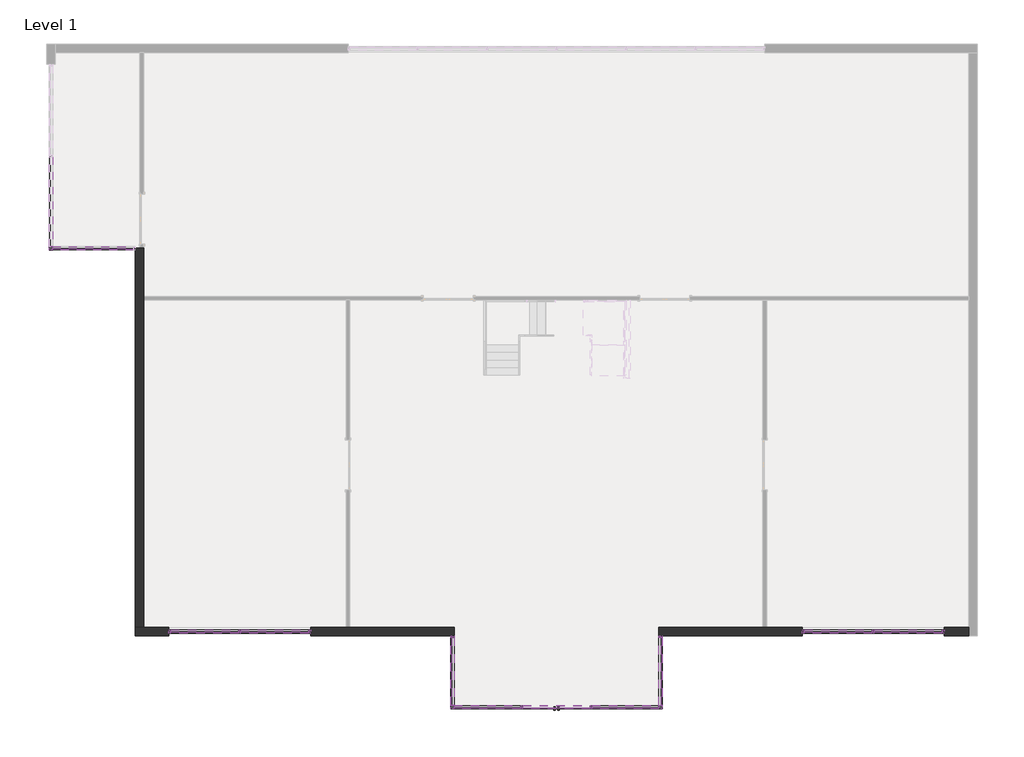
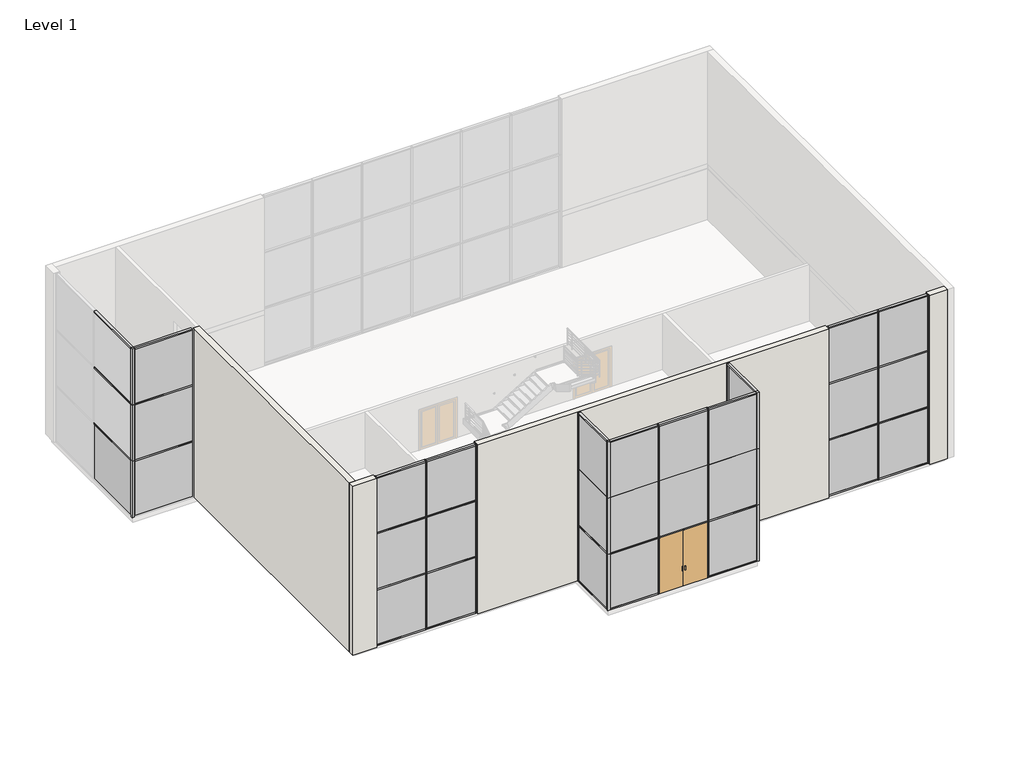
# One storey, part 1 of 5: 75 members, 30 plates, 2 walls, 1 door.
"""IFC4 building model written with IfcOpenShell, lengths in millimetres."""

from ifc_helpers import new_model, si_unit, origin, place, context, project, spatial, faceted_brep, transform, mapped, element, save
from components import m_curtain_wall_dbl_glass_m_curtain_wall_dbl_glass_65589565, member_092dde94, member_3b285806, member_887e70fb, member_3f395ae9, member_eaba9652, member_bd5c9510, member_6d1da0dd, member_11ed7e2d, member_605e1044, member_b6766b59, member_5ef46571, member_2d82c926, member_728bf22d, member_0c17b8a1, member_268c476f, system_panel_glazed_dec8f576, system_panel_glazed_a2b5a2cd, system_panel_glazed_4b2e8b6a, system_panel_glazed_935986ee, system_panel_glazed_54eba105, system_panel_glazed_2b873caf, system_panel_glazed_c65d631f, system_panel_glazed_bd540f61, system_panel_glazed_3bf1a00e, system_panel_glazed_5724f4ed, system_panel_glazed_d0cb5eef, system_panel_glazed_25cc98ba, system_panel_glazed_d8e6d469, system_panel_glazed_b25d086d, system_panel_glazed_057324e0

model = new_model("IFC4")

# Units and contexts
model_context = context("Model", 3, world=origin())
ifc_project = project(units=[si_unit("LENGTHUNIT", "METRE", prefix="MILLI")], contexts=[model_context])

# Site, building, storey
site = spatial("IfcSite", under=ifc_project)
building = spatial("IfcBuilding", under=site)
storey = spatial("IfcBuildingStorey", under=building, Name="Level 1", Elevation=0.0)

# Door
placement = place(None, origin())
m_curtain_wall_dbl_glass_m_curtain_wall_dbl_glass_shape = m_curtain_wall_dbl_glass_m_curtain_wall_dbl_glass_65589565(model_context)
element("IfcDoor", 1, ObjectType="M_Curtain Wall Dbl Glass : M_Curtain Wall Dbl Glass", at=placement, inside=storey, context=model_context, shape_type="MappedRepresentation", body=[
    mapped(m_curtain_wall_dbl_glass_m_curtain_wall_dbl_glass_shape, transform((-3088.917382, -8357.3516396, 0.0), x_axis=(-1.0, 0.0, 0.0), y_axis=(0.0, -1.0, 0.0), z_axis=(0.0, 0.0, 1.0))),
])

# Members
member_shape = member_092dde94(model_context)
element("IfcMember", 2, ObjectType="Quad Corner Mullion : 5\" x 5\" Quad Corner", at=placement, inside=storey, context=model_context, shape_type="MappedRepresentation", body=[
    mapped(member_shape, transform((-6898.917382, -8357.3516396, 0.0), x_axis=(-1.0, 0.0, 0.0), y_axis=(0.0, 1.0, 0.0), z_axis=(0.0, 0.0, -1.0))),
])
element("IfcMember", 3, ObjectType="Quad Corner Mullion : 5\" x 5\" Quad Corner", at=placement, inside=storey, context=model_context, shape_type="MappedRepresentation", body=[
    mapped(member_shape, transform((721.082618, -8357.3516396, 3048.0), x_axis=(1.0, 0.0, 0.0), y_axis=(0.0, 1.0, 0.0), z_axis=(0.0, 0.0, 1.0))),
])
element("IfcMember", 4, ObjectType="Quad Corner Mullion : 5\" x 5\" Quad Corner", at=placement, inside=storey, context=model_context, shape_type="MappedRepresentation", body=[
    mapped(member_shape, transform((-21580.117382, 8438.3983604, 0.0), x_axis=(-1.0, 0.0, 0.0), y_axis=(0.0, 1.0, 0.0), z_axis=(0.0, 0.0, -1.0))),
])
element("IfcMember", 5, ObjectType="Quad Corner Mullion : 5\" x 5\" Quad Corner", at=placement, inside=storey, context=model_context, shape_type="MappedRepresentation", body=[
    mapped(member_shape, transform((-21580.117382, 8438.3983604, 3048.0), x_axis=(-1.0, 0.0, 0.0), y_axis=(0.0, 1.0, 0.0), z_axis=(0.0, 0.0, -1.0))),
])
element("IfcMember", 6, ObjectType="Quad Corner Mullion : 5\" x 5\" Quad Corner", at=placement, inside=storey, context=model_context, shape_type="MappedRepresentation", body=[
    mapped(member_shape, transform((-21580.117382, 8438.3983604, 6096.0), x_axis=(-1.0, 0.0, 0.0), y_axis=(0.0, 1.0, 0.0), z_axis=(0.0, 0.0, -1.0))),
])
element("IfcMember", 7, ObjectType="Quad Corner Mullion : 5\" x 5\" Quad Corner", at=placement, inside=storey, context=model_context, shape_type="MappedRepresentation", body=[
    mapped(member_shape, transform((721.082618, -8357.3516396, 9144.0), x_axis=(1.0, 0.0, 0.0), y_axis=(0.0, 1.0, 0.0), z_axis=(0.0, 0.0, 1.0))),
])
element("IfcMember", 8, ObjectType="Quad Corner Mullion : 5\" x 5\" Quad Corner", at=placement, inside=storey, context=model_context, shape_type="MappedRepresentation", body=[
    mapped(member_shape, transform((-6898.917382, -8357.3516396, 3048.0), x_axis=(-1.0, 0.0, 0.0), y_axis=(0.0, 1.0, 0.0), z_axis=(0.0, 0.0, -1.0))),
])
element("IfcMember", 9, ObjectType="Quad Corner Mullion : 5\" x 5\" Quad Corner", at=placement, inside=storey, context=model_context, shape_type="MappedRepresentation", body=[
    mapped(member_shape, transform((721.082618, -8357.3516396, 6096.0), x_axis=(1.0, 0.0, 0.0), y_axis=(0.0, 1.0, 0.0), z_axis=(0.0, 0.0, 1.0))),
])
element("IfcMember", 10, ObjectType="Quad Corner Mullion : 5\" x 5\" Quad Corner", at=placement, inside=storey, context=model_context, shape_type="MappedRepresentation", body=[
    mapped(member_shape, transform((-6898.917382, -8357.3516396, 6096.0), x_axis=(-1.0, 0.0, 0.0), y_axis=(0.0, 1.0, 0.0), z_axis=(0.0, 0.0, -1.0))),
])
member_2_shape = member_3b285806(model_context)
element("IfcMember", 11, ObjectType="Rectangular Mullion : 2.5\" x 5\" rectangular", at=placement, inside=storey, context=model_context, shape_type="MappedRepresentation", body=[
    mapped(member_2_shape, transform((-6835.417382, -8357.3516396, 9144.0), x_axis=(0.0, 0.0, 1.0), y_axis=(0.0, 1.0, 0.0), z_axis=(-1.0, 0.0, 0.0))),
])
element("IfcMember", 12, ObjectType="Rectangular Mullion : 2.5\" x 5\" rectangular", at=placement, inside=storey, context=model_context, shape_type="MappedRepresentation", body=[
    mapped(member_2_shape, transform((-1787.1673821, -8357.3516396, 9144.0), x_axis=(0.0, 0.0, 1.0), y_axis=(0.0, 1.0, 0.0), z_axis=(-1.0, 0.0, 0.0))),
])
element("IfcMember", 13, ObjectType="Rectangular Mullion : 2.5\" x 5\" rectangular", at=placement, inside=storey, context=model_context, shape_type="MappedRepresentation", body=[
    mapped(member_2_shape, transform((657.582618, -8357.3516396, 0.0), x_axis=(0.0, 0.0, -1.0), y_axis=(0.0, 1.0, 0.0), z_axis=(1.0, 0.0, 0.0))),
])
element("IfcMember", 14, ObjectType="Rectangular Mullion : 2.5\" x 5\" rectangular", at=placement, inside=storey, context=model_context, shape_type="MappedRepresentation", body=[
    mapped(member_2_shape, transform((-4390.6673819, -8357.3516396, 0.0), x_axis=(0.0, 0.0, -1.0), y_axis=(0.0, 1.0, 0.0), z_axis=(1.0, 0.0, 0.0))),
])
member_3_shape = member_887e70fb(model_context)
element("IfcMember", 15, ObjectType="Rectangular Mullion : 2.5\" x 5\" rectangular", at=placement, inside=storey, context=model_context, shape_type="MappedRepresentation", body=[
    mapped(member_3_shape, transform((-4327.1673819, -8357.3516396, 9144.0), x_axis=(0.0, 0.0, 1.0), y_axis=(0.0, 1.0, 0.0), z_axis=(-1.0, 0.0, 0.0))),
])
member_4_shape = member_3f395ae9(model_context)
element("IfcMember", 16, ObjectType="Rectangular Mullion : 2.5\" x 5\" rectangular", at=placement, inside=storey, context=model_context, shape_type="MappedRepresentation", body=[
    mapped(member_4_shape, transform((-6898.917382, -5737.9766396, 0.0), x_axis=(0.0, 1.0, 0.0), y_axis=(1.0, 0.0, 0.0), z_axis=(0.0, 0.0, -1.0))),
])
element("IfcMember", 17, ObjectType="Rectangular Mullion : 2.5\" x 5\" rectangular", at=placement, inside=storey, context=model_context, shape_type="MappedRepresentation", body=[
    mapped(member_4_shape, transform((-17262.117382, -5582.4016396, 0.0), x_axis=(-1.0, 0.0, 0.0), y_axis=(0.0, 1.0, 0.0), z_axis=(0.0, 0.0, -1.0))),
])
element("IfcMember", 18, ObjectType="Rectangular Mullion : 2.5\" x 5\" rectangular", at=placement, inside=storey, context=model_context, shape_type="MappedRepresentation", body=[
    mapped(member_4_shape, transform((-17262.117382, -5582.4016396, 6096.0), x_axis=(-1.0, 0.0, 0.0), y_axis=(0.0, 1.0, 0.0), z_axis=(0.0, 0.0, -1.0))),
])
member_5_shape = member_eaba9652(model_context)
element("IfcMember", 19, ObjectType="Rectangular Mullion : 2.5\" x 5\" rectangular", at=placement, inside=storey, context=model_context, shape_type="MappedRepresentation", body=[
    mapped(member_5_shape, transform((-1818.9173821, -8357.3516396, 0.0), x_axis=(-1.0, 0.0, 0.0), y_axis=(0.0, 1.0, 0.0), z_axis=(0.0, 0.0, -1.0))),
])
element("IfcMember", 20, ObjectType="Rectangular Mullion : 2.5\" x 5\" rectangular", at=placement, inside=storey, context=model_context, shape_type="MappedRepresentation", body=[
    mapped(member_5_shape, transform((-4358.9173819, -8357.3516396, 0.0), x_axis=(-1.0, 0.0, 0.0), y_axis=(0.0, 1.0, 0.0), z_axis=(0.0, 0.0, -1.0))),
])
element("IfcMember", 21, ObjectType="Rectangular Mullion : 2.5\" x 5\" rectangular", at=placement, inside=storey, context=model_context, shape_type="MappedRepresentation", body=[
    mapped(member_5_shape, transform((-14671.317382, -5582.4016396, 0.0), x_axis=(-1.0, 0.0, 0.0), y_axis=(0.0, 1.0, 0.0), z_axis=(0.0, 0.0, -1.0))),
])
element("IfcMember", 22, ObjectType="Rectangular Mullion : 2.5\" x 5\" rectangular", at=placement, inside=storey, context=model_context, shape_type="MappedRepresentation", body=[
    mapped(member_5_shape, transform((-14671.317382, -5582.4016396, 6096.0), x_axis=(-1.0, 0.0, 0.0), y_axis=(0.0, 1.0, 0.0), z_axis=(0.0, 0.0, -1.0))),
])
member_6_shape = member_bd5c9510(model_context)
element("IfcMember", 23, ObjectType="Rectangular Mullion : 2.5\" x 5\" rectangular", at=placement, inside=storey, context=model_context, shape_type="MappedRepresentation", body=[
    mapped(member_6_shape, transform((-6835.417382, -8357.3516396, 3048.0), x_axis=(0.0, 0.0, 1.0), y_axis=(0.0, 1.0, 0.0), z_axis=(-1.0, 0.0, 0.0))),
])
element("IfcMember", 24, ObjectType="Rectangular Mullion : 2.5\" x 5\" rectangular", at=placement, inside=storey, context=model_context, shape_type="MappedRepresentation", body=[
    mapped(member_6_shape, transform((-1787.1673821, -8357.3516396, 3048.0), x_axis=(0.0, 0.0, 1.0), y_axis=(0.0, 1.0, 0.0), z_axis=(-1.0, 0.0, 0.0))),
])
member_7_shape = member_6d1da0dd(model_context)
element("IfcMember", 25, ObjectType="Rectangular Mullion : 2.5\" x 5\" rectangular", at=placement, inside=storey, context=model_context, shape_type="MappedRepresentation", body=[
    mapped(member_7_shape, transform((-4327.1673819, -8357.3516396, 3048.0), x_axis=(0.0, 0.0, 1.0), y_axis=(0.0, 1.0, 0.0), z_axis=(-1.0, 0.0, 0.0))),
])
element("IfcMember", 26, ObjectType="Rectangular Mullion : 2.5\" x 5\" rectangular", at=placement, inside=storey, context=model_context, shape_type="MappedRepresentation", body=[
    mapped(member_4_shape, transform((-12080.517382, -5582.4016396, 9144.0), x_axis=(1.0, 0.0, 0.0), y_axis=(0.0, 1.0, 0.0), z_axis=(0.0, 0.0, 1.0))),
])
element("IfcMember", 27, ObjectType="Rectangular Mullion : 2.5\" x 5\" rectangular", at=placement, inside=storey, context=model_context, shape_type="MappedRepresentation", body=[
    mapped(member_4_shape, transform((721.082618, -5737.9766396, 3048.0), x_axis=(0.0, 1.0, 0.0), y_axis=(-1.0, 0.0, 0.0), z_axis=(0.0, 0.0, 1.0))),
])
element("IfcMember", 28, ObjectType="Rectangular Mullion : 2.5\" x 5\" rectangular", at=placement, inside=storey, context=model_context, shape_type="MappedRepresentation", body=[
    mapped(member_4_shape, transform((-12080.517382, -5582.4016396, 3048.0), x_axis=(1.0, 0.0, 0.0), y_axis=(0.0, 1.0, 0.0), z_axis=(0.0, 0.0, 1.0))),
])
element("IfcMember", 29, ObjectType="Rectangular Mullion : 2.5\" x 5\" rectangular", at=placement, inside=storey, context=model_context, shape_type="MappedRepresentation", body=[
    mapped(member_5_shape, transform((8493.482618, -5582.4016396, 0.0), x_axis=(1.0, 0.0, 0.0), y_axis=(0.0, -1.0, 0.0), z_axis=(0.0, 0.0, -1.0))),
])
element("IfcMember", 30, ObjectType="Rectangular Mullion : 2.5\" x 5\" rectangular", at=placement, inside=storey, context=model_context, shape_type="MappedRepresentation", body=[
    mapped(member_5_shape, transform((8493.482618, -5582.4016396, 3048.0), x_axis=(1.0, 0.0, 0.0), y_axis=(0.0, -1.0, 0.0), z_axis=(0.0, 0.0, -1.0))),
])
element("IfcMember", 31, ObjectType="Rectangular Mullion : 2.5\" x 5\" rectangular", at=placement, inside=storey, context=model_context, shape_type="MappedRepresentation", body=[
    mapped(member_5_shape, transform((8493.482618, -5582.4016396, 6096.0), x_axis=(1.0, 0.0, 0.0), y_axis=(0.0, -1.0, 0.0), z_axis=(0.0, 0.0, -1.0))),
])
element("IfcMember", 32, ObjectType="Rectangular Mullion : 2.5\" x 5\" rectangular", at=placement, inside=storey, context=model_context, shape_type="MappedRepresentation", body=[
    mapped(member_4_shape, transform((5902.682618, -5582.4016396, 9144.0), x_axis=(-1.0, 0.0, 0.0), y_axis=(0.0, -1.0, 0.0), z_axis=(0.0, 0.0, 1.0))),
])
element("IfcMember", 33, ObjectType="Rectangular Mullion : 2.5\" x 5\" rectangular", at=placement, inside=storey, context=model_context, shape_type="MappedRepresentation", body=[
    mapped(member_4_shape, transform((11084.282618, -5582.4016396, 0.0), x_axis=(1.0, 0.0, 0.0), y_axis=(0.0, -1.0, 0.0), z_axis=(0.0, 0.0, -1.0))),
])
element("IfcMember", 34, ObjectType="Rectangular Mullion : 2.5\" x 5\" rectangular", at=placement, inside=storey, context=model_context, shape_type="MappedRepresentation", body=[
    mapped(member_4_shape, transform((11084.282618, -5582.4016396, 3048.0), x_axis=(1.0, 0.0, 0.0), y_axis=(0.0, -1.0, 0.0), z_axis=(0.0, 0.0, -1.0))),
])
element("IfcMember", 35, ObjectType="Rectangular Mullion : 2.5\" x 5\" rectangular", at=placement, inside=storey, context=model_context, shape_type="MappedRepresentation", body=[
    mapped(member_4_shape, transform((11084.282618, -5582.4016396, 6096.0), x_axis=(1.0, 0.0, 0.0), y_axis=(0.0, -1.0, 0.0), z_axis=(0.0, 0.0, -1.0))),
])
element("IfcMember", 36, ObjectType="Rectangular Mullion : 2.5\" x 5\" rectangular", at=placement, inside=storey, context=model_context, shape_type="MappedRepresentation", body=[
    mapped(member_4_shape, transform((5902.682618, -5582.4016396, 3048.0), x_axis=(-1.0, 0.0, 0.0), y_axis=(0.0, -1.0, 0.0), z_axis=(0.0, 0.0, 1.0))),
])
element("IfcMember", 37, ObjectType="Rectangular Mullion : 2.5\" x 5\" rectangular", at=placement, inside=storey, context=model_context, shape_type="MappedRepresentation", body=[
    mapped(member_4_shape, transform((5902.682618, -5582.4016396, 6096.0), x_axis=(-1.0, 0.0, 0.0), y_axis=(0.0, -1.0, 0.0), z_axis=(0.0, 0.0, 1.0))),
])
member_8_shape = member_11ed7e2d(model_context)
element("IfcMember", 38, ObjectType="Rectangular Mullion : 2.5\" x 5\" rectangular", at=placement, inside=storey, context=model_context, shape_type="MappedRepresentation", body=[
    mapped(member_8_shape, transform((-6898.917382, -5801.4766396, 9144.0), x_axis=(0.0, 0.0, 1.0), y_axis=(1.0, 0.0, 0.0), z_axis=(0.0, 1.0, 0.0))),
])
element("IfcMember", 39, ObjectType="Rectangular Mullion : 2.5\" x 5\" rectangular", at=placement, inside=storey, context=model_context, shape_type="MappedRepresentation", body=[
    mapped(member_8_shape, transform((721.082618, -8293.8516396, 9144.0), x_axis=(0.0, 0.0, 1.0), y_axis=(-1.0, 0.0, 0.0), z_axis=(0.0, -1.0, 0.0))),
])
element("IfcMember", 40, ObjectType="Rectangular Mullion : 2.5\" x 5\" rectangular", at=placement, inside=storey, context=model_context, shape_type="MappedRepresentation", body=[
    mapped(member_8_shape, transform((-6898.917382, -8293.8516396, 0.0), x_axis=(0.0, 0.0, -1.0), y_axis=(1.0, 0.0, 0.0), z_axis=(0.0, -1.0, 0.0))),
])
element("IfcMember", 41, ObjectType="Rectangular Mullion : 2.5\" x 5\" rectangular", at=placement, inside=storey, context=model_context, shape_type="MappedRepresentation", body=[
    mapped(member_8_shape, transform((721.082618, -5801.4766396, 0.0), x_axis=(0.0, 0.0, -1.0), y_axis=(-1.0, 0.0, 0.0), z_axis=(0.0, 1.0, 0.0))),
])
member_9_shape = member_605e1044(model_context)
element("IfcMember", 42, ObjectType="Rectangular Mullion : 2.5\" x 5\" rectangular", at=placement, inside=storey, context=model_context, shape_type="MappedRepresentation", body=[
    mapped(member_9_shape, transform((-6898.917382, -5801.4766396, 3048.0), x_axis=(0.0, 0.0, 1.0), y_axis=(1.0, 0.0, 0.0), z_axis=(0.0, 1.0, 0.0))),
])
element("IfcMember", 43, ObjectType="Rectangular Mullion : 2.5\" x 5\" rectangular", at=placement, inside=storey, context=model_context, shape_type="MappedRepresentation", body=[
    mapped(member_9_shape, transform((721.082618, -8293.8516396, 3048.0), x_axis=(0.0, 0.0, 1.0), y_axis=(-1.0, 0.0, 0.0), z_axis=(0.0, -1.0, 0.0))),
])
member_10_shape = member_b6766b59(model_context)
element("IfcMember", 44, ObjectType="Rectangular Mullion : 2.5\" x 5\" rectangular", at=placement, inside=storey, context=model_context, shape_type="MappedRepresentation", body=[
    mapped(member_10_shape, transform((-17198.617382, -5582.4016396, 9144.0), x_axis=(0.0, 0.0, 1.0), y_axis=(0.0, 1.0, 0.0), z_axis=(-1.0, 0.0, 0.0))),
])
element("IfcMember", 45, ObjectType="Rectangular Mullion : 2.5\" x 5\" rectangular", at=placement, inside=storey, context=model_context, shape_type="MappedRepresentation", body=[
    mapped(member_10_shape, transform((-14639.567382, -5582.4016396, 9144.0), x_axis=(0.0, 0.0, 1.0), y_axis=(0.0, 1.0, 0.0), z_axis=(-1.0, 0.0, 0.0))),
])
element("IfcMember", 46, ObjectType="Rectangular Mullion : 2.5\" x 5\" rectangular", at=placement, inside=storey, context=model_context, shape_type="MappedRepresentation", body=[
    mapped(member_10_shape, transform((-12144.017382, -5582.4016396, 0.0), x_axis=(0.0, 0.0, -1.0), y_axis=(0.0, 1.0, 0.0), z_axis=(1.0, 0.0, 0.0))),
])
element("IfcMember", 47, ObjectType="Rectangular Mullion : 2.5\" x 5\" rectangular", at=placement, inside=storey, context=model_context, shape_type="MappedRepresentation", body=[
    mapped(member_10_shape, transform((-14703.067382, -5582.4016396, 0.0), x_axis=(0.0, 0.0, -1.0), y_axis=(0.0, 1.0, 0.0), z_axis=(1.0, 0.0, 0.0))),
])
member_11_shape = member_5ef46571(model_context)
element("IfcMember", 48, ObjectType="Rectangular Mullion : 2.5\" x 5\" rectangular", at=placement, inside=storey, context=model_context, shape_type="MappedRepresentation", body=[
    mapped(member_11_shape, transform((-14639.567382, -5582.4016396, 3048.0), x_axis=(0.0, 0.0, 1.0), y_axis=(0.0, 1.0, 0.0), z_axis=(-1.0, 0.0, 0.0))),
])
element("IfcMember", 49, ObjectType="Rectangular Mullion : 2.5\" x 5\" rectangular", at=placement, inside=storey, context=model_context, shape_type="MappedRepresentation", body=[
    mapped(member_11_shape, transform((-17198.617382, -5582.4016396, 3048.0), x_axis=(0.0, 0.0, 1.0), y_axis=(0.0, 1.0, 0.0), z_axis=(-1.0, 0.0, 0.0))),
])
element("IfcMember", 50, ObjectType="Rectangular Mullion : 2.5\" x 5\" rectangular", at=placement, inside=storey, context=model_context, shape_type="MappedRepresentation", body=[
    mapped(member_11_shape, transform((-14639.567382, -5582.4016396, 6096.0), x_axis=(0.0, 0.0, 1.0), y_axis=(0.0, 1.0, 0.0), z_axis=(-1.0, 0.0, 0.0))),
])
element("IfcMember", 51, ObjectType="Rectangular Mullion : 2.5\" x 5\" rectangular", at=placement, inside=storey, context=model_context, shape_type="MappedRepresentation", body=[
    mapped(member_11_shape, transform((-17198.617382, -5582.4016396, 6096.0), x_axis=(0.0, 0.0, 1.0), y_axis=(0.0, 1.0, 0.0), z_axis=(-1.0, 0.0, 0.0))),
])
element("IfcMember", 52, ObjectType="Rectangular Mullion : 2.5\" x 5\" rectangular", at=placement, inside=storey, context=model_context, shape_type="MappedRepresentation", body=[
    mapped(member_5_shape, transform((-14671.317382, -5582.4016396, 3048.0), x_axis=(-1.0, 0.0, 0.0), y_axis=(0.0, 1.0, 0.0), z_axis=(0.0, 0.0, -1.0))),
])
element("IfcMember", 53, ObjectType="Rectangular Mullion : 2.5\" x 5\" rectangular", at=placement, inside=storey, context=model_context, shape_type="MappedRepresentation", body=[
    mapped(member_4_shape, transform((-17262.117382, -5582.4016396, 3048.0), x_axis=(-1.0, 0.0, 0.0), y_axis=(0.0, 1.0, 0.0), z_axis=(0.0, 0.0, -1.0))),
])
element("IfcMember", 54, ObjectType="Rectangular Mullion : 2.5\" x 5\" rectangular", at=placement, inside=storey, context=model_context, shape_type="MappedRepresentation", body=[
    mapped(member_4_shape, transform((-12080.517382, -5582.4016396, 6096.0), x_axis=(1.0, 0.0, 0.0), y_axis=(0.0, 1.0, 0.0), z_axis=(0.0, 0.0, 1.0))),
])
element("IfcMember", 55, ObjectType="Rectangular Mullion : 2.5\" x 5\" rectangular", at=placement, inside=storey, context=model_context, shape_type="MappedRepresentation", body=[
    mapped(member_10_shape, transform((11020.782618, -5582.4016396, 9144.0), x_axis=(0.0, 0.0, 1.0), y_axis=(0.0, -1.0, 0.0), z_axis=(1.0, 0.0, 0.0))),
])
element("IfcMember", 56, ObjectType="Rectangular Mullion : 2.5\" x 5\" rectangular", at=placement, inside=storey, context=model_context, shape_type="MappedRepresentation", body=[
    mapped(member_10_shape, transform((8461.732618, -5582.4016396, 9144.0), x_axis=(0.0, 0.0, 1.0), y_axis=(0.0, -1.0, 0.0), z_axis=(1.0, 0.0, 0.0))),
])
element("IfcMember", 57, ObjectType="Rectangular Mullion : 2.5\" x 5\" rectangular", at=placement, inside=storey, context=model_context, shape_type="MappedRepresentation", body=[
    mapped(member_10_shape, transform((5966.182618, -5582.4016396, 0.0), x_axis=(0.0, 0.0, -1.0), y_axis=(0.0, -1.0, 0.0), z_axis=(-1.0, 0.0, 0.0))),
])
element("IfcMember", 58, ObjectType="Rectangular Mullion : 2.5\" x 5\" rectangular", at=placement, inside=storey, context=model_context, shape_type="MappedRepresentation", body=[
    mapped(member_10_shape, transform((8525.232618, -5582.4016396, 0.0), x_axis=(0.0, 0.0, -1.0), y_axis=(0.0, -1.0, 0.0), z_axis=(-1.0, 0.0, 0.0))),
])
element("IfcMember", 59, ObjectType="Rectangular Mullion : 2.5\" x 5\" rectangular", at=placement, inside=storey, context=model_context, shape_type="MappedRepresentation", body=[
    mapped(member_11_shape, transform((8461.732618, -5582.4016396, 3048.0), x_axis=(0.0, 0.0, 1.0), y_axis=(0.0, -1.0, 0.0), z_axis=(1.0, 0.0, 0.0))),
])
element("IfcMember", 60, ObjectType="Rectangular Mullion : 2.5\" x 5\" rectangular", at=placement, inside=storey, context=model_context, shape_type="MappedRepresentation", body=[
    mapped(member_11_shape, transform((11020.782618, -5582.4016396, 3048.0), x_axis=(0.0, 0.0, 1.0), y_axis=(0.0, -1.0, 0.0), z_axis=(1.0, 0.0, 0.0))),
])
element("IfcMember", 61, ObjectType="Rectangular Mullion : 2.5\" x 5\" rectangular", at=placement, inside=storey, context=model_context, shape_type="MappedRepresentation", body=[
    mapped(member_11_shape, transform((8461.732618, -5582.4016396, 6096.0), x_axis=(0.0, 0.0, 1.0), y_axis=(0.0, -1.0, 0.0), z_axis=(1.0, 0.0, 0.0))),
])
element("IfcMember", 62, ObjectType="Rectangular Mullion : 2.5\" x 5\" rectangular", at=placement, inside=storey, context=model_context, shape_type="MappedRepresentation", body=[
    mapped(member_11_shape, transform((11020.782618, -5582.4016396, 6096.0), x_axis=(0.0, 0.0, 1.0), y_axis=(0.0, -1.0, 0.0), z_axis=(1.0, 0.0, 0.0))),
])
member_12_shape = member_2d82c926(model_context)
element("IfcMember", 63, ObjectType="Rectangular Mullion : 2.5\" x 5\" rectangular", at=placement, inside=storey, context=model_context, shape_type="MappedRepresentation", body=[
    mapped(member_12_shape, transform((-21580.117382, 8501.8983604, 9144.0), x_axis=(0.0, 0.0, 1.0), y_axis=(-1.0, 0.0, 0.0), z_axis=(0.0, -1.0, 0.0))),
])
member_13_shape = member_728bf22d(model_context)
element("IfcMember", 64, ObjectType="Rectangular Mullion : 2.5\" x 5\" rectangular", at=placement, inside=storey, context=model_context, shape_type="MappedRepresentation", body=[
    mapped(member_13_shape, transform((-21580.117382, 8501.8983604, 3048.0), x_axis=(0.0, 0.0, 1.0), y_axis=(-1.0, 0.0, 0.0), z_axis=(0.0, -1.0, 0.0))),
])
element("IfcMember", 65, ObjectType="Rectangular Mullion : 2.5\" x 5\" rectangular", at=placement, inside=storey, context=model_context, shape_type="MappedRepresentation", body=[
    mapped(member_13_shape, transform((-21580.117382, 8501.8983604, 6096.0), x_axis=(0.0, 0.0, 1.0), y_axis=(-1.0, 0.0, 0.0), z_axis=(0.0, -1.0, 0.0))),
])
member_14_shape = member_0c17b8a1(model_context)
element("IfcMember", 66, ObjectType="Rectangular Mullion : 2.5\" x 5\" rectangular", at=placement, inside=storey, context=model_context, shape_type="MappedRepresentation", body=[
    mapped(member_14_shape, transform((-21516.617382, 8438.3983604, 9144.0), x_axis=(0.0, 0.0, 1.0), y_axis=(0.0, 1.0, 0.0), z_axis=(-1.0, 0.0, 0.0))),
])
member_15_shape = member_268c476f(model_context)
element("IfcMember", 67, ObjectType="Rectangular Mullion : 2.5\" x 5\" rectangular", at=placement, inside=storey, context=model_context, shape_type="MappedRepresentation", body=[
    mapped(member_15_shape, transform((-21516.617382, 8438.3983604, 3048.0), x_axis=(0.0, 0.0, 1.0), y_axis=(0.0, 1.0, 0.0), z_axis=(-1.0, 0.0, 0.0))),
])
element("IfcMember", 68, ObjectType="Rectangular Mullion : 2.5\" x 5\" rectangular", at=placement, inside=storey, context=model_context, shape_type="MappedRepresentation", body=[
    mapped(member_15_shape, transform((-21516.617382, 8438.3983604, 6096.0), x_axis=(0.0, 0.0, 1.0), y_axis=(0.0, 1.0, 0.0), z_axis=(-1.0, 0.0, 0.0))),
])
element("IfcMember", 69, ObjectType="Rectangular Mullion : 2.5\" x 5\" rectangular", at=placement, inside=storey, context=model_context, shape_type="MappedRepresentation", body=[
    mapped(member_5_shape, transform((-1818.9173821, -8357.3516396, 3048.0), x_axis=(-1.0, 0.0, 0.0), y_axis=(0.0, 1.0, 0.0), z_axis=(0.0, 0.0, -1.0))),
])
element("IfcMember", 70, ObjectType="Rectangular Mullion : 2.5\" x 5\" rectangular", at=placement, inside=storey, context=model_context, shape_type="MappedRepresentation", body=[
    mapped(member_5_shape, transform((-4358.9173819, -8357.3516396, 3048.0), x_axis=(-1.0, 0.0, 0.0), y_axis=(0.0, 1.0, 0.0), z_axis=(0.0, 0.0, -1.0))),
])
element("IfcMember", 71, ObjectType="Rectangular Mullion : 2.5\" x 5\" rectangular", at=placement, inside=storey, context=model_context, shape_type="MappedRepresentation", body=[
    mapped(member_5_shape, transform((-1818.9173821, -8357.3516396, 6096.0), x_axis=(-1.0, 0.0, 0.0), y_axis=(0.0, 1.0, 0.0), z_axis=(0.0, 0.0, -1.0))),
])
element("IfcMember", 72, ObjectType="Rectangular Mullion : 2.5\" x 5\" rectangular", at=placement, inside=storey, context=model_context, shape_type="MappedRepresentation", body=[
    mapped(member_5_shape, transform((-4358.9173819, -8357.3516396, 6096.0), x_axis=(-1.0, 0.0, 0.0), y_axis=(0.0, 1.0, 0.0), z_axis=(0.0, 0.0, -1.0))),
])
element("IfcMember", 73, ObjectType="Rectangular Mullion : 2.5\" x 5\" rectangular", at=placement, inside=storey, context=model_context, shape_type="MappedRepresentation", body=[
    mapped(member_4_shape, transform((721.082618, -5737.9766396, 9144.0), x_axis=(0.0, 1.0, 0.0), y_axis=(-1.0, 0.0, 0.0), z_axis=(0.0, 0.0, 1.0))),
])
element("IfcMember", 74, ObjectType="Rectangular Mullion : 2.5\" x 5\" rectangular", at=placement, inside=storey, context=model_context, shape_type="MappedRepresentation", body=[
    mapped(member_4_shape, transform((-6898.917382, -5737.9766396, 3048.0), x_axis=(0.0, 1.0, 0.0), y_axis=(1.0, 0.0, 0.0), z_axis=(0.0, 0.0, -1.0))),
])
element("IfcMember", 75, ObjectType="Rectangular Mullion : 2.5\" x 5\" rectangular", at=placement, inside=storey, context=model_context, shape_type="MappedRepresentation", body=[
    mapped(member_4_shape, transform((721.082618, -5737.9766396, 6096.0), x_axis=(0.0, 1.0, 0.0), y_axis=(-1.0, 0.0, 0.0), z_axis=(0.0, 0.0, 1.0))),
])
element("IfcMember", 76, ObjectType="Rectangular Mullion : 2.5\" x 5\" rectangular", at=placement, inside=storey, context=model_context, shape_type="MappedRepresentation", body=[
    mapped(member_4_shape, transform((-6898.917382, -5737.9766396, 6096.0), x_axis=(0.0, 1.0, 0.0), y_axis=(1.0, 0.0, 0.0), z_axis=(0.0, 0.0, -1.0))),
])

# Plates
system_panel_glazed_shape = system_panel_glazed_dec8f576(model_context)
element("IfcPlate", 77, ObjectType="System Panel : Glazed", at=placement, inside=storey, context=model_context, shape_type="MappedRepresentation", body=[
    mapped(system_panel_glazed_shape, transform((-564.792382, -8357.3516396, 63.5), x_axis=(-1.0, 0.0, 0.0), y_axis=(0.0, -1.0, 0.0), z_axis=(0.0, 0.0, 1.0))),
])
element("IfcPlate", 78, ObjectType="System Panel : Glazed", at=placement, inside=storey, context=model_context, shape_type="MappedRepresentation", body=[
    mapped(system_panel_glazed_shape, transform((-5613.0423819, -8357.3516396, 63.5), x_axis=(-1.0, 0.0, 0.0), y_axis=(0.0, -1.0, 0.0), z_axis=(0.0, 0.0, 1.0))),
])
system_panel_glazed_2_shape = system_panel_glazed_a2b5a2cd(model_context)
element("IfcPlate", 79, ObjectType="System Panel : Glazed", at=placement, inside=storey, context=model_context, shape_type="MappedRepresentation", body=[
    mapped(system_panel_glazed_2_shape, transform((721.082618, -7047.6641396, 63.5), x_axis=(0.0, -1.0, 0.0), y_axis=(1.0, 0.0, 0.0), z_axis=(0.0, 0.0, 1.0))),
])
element("IfcPlate", 80, ObjectType="System Panel : Glazed", at=placement, inside=storey, context=model_context, shape_type="MappedRepresentation", body=[
    mapped(system_panel_glazed_2_shape, transform((-6898.917382, -7047.6641396, 63.5), x_axis=(0.0, 1.0, 0.0), y_axis=(-1.0, 0.0, 0.0), z_axis=(0.0, 0.0, 1.0))),
])
system_panel_glazed_3_shape = system_panel_glazed_4b2e8b6a(model_context)
element("IfcPlate", 81, ObjectType="System Panel : Glazed", at=placement, inside=storey, context=model_context, shape_type="MappedRepresentation", body=[
    mapped(system_panel_glazed_3_shape, transform((-13391.792382, -5582.4016396, 63.5), x_axis=(-1.0, 0.0, 0.0), y_axis=(0.0, -1.0, 0.0), z_axis=(0.0, 0.0, 1.0))),
])
element("IfcPlate", 82, ObjectType="System Panel : Glazed", at=placement, inside=storey, context=model_context, shape_type="MappedRepresentation", body=[
    mapped(system_panel_glazed_3_shape, transform((-15950.842382, -5582.4016396, 63.5), x_axis=(-1.0, 0.0, 0.0), y_axis=(0.0, -1.0, 0.0), z_axis=(0.0, 0.0, 1.0))),
])
element("IfcPlate", 83, ObjectType="System Panel : Glazed", at=placement, inside=storey, context=model_context, shape_type="MappedRepresentation", body=[
    mapped(system_panel_glazed_3_shape, transform((-13391.792382, -5582.4016396, 6127.75), x_axis=(-1.0, 0.0, 0.0), y_axis=(0.0, -1.0, 0.0), z_axis=(0.0, 0.0, 1.0))),
])
element("IfcPlate", 84, ObjectType="System Panel : Glazed", at=placement, inside=storey, context=model_context, shape_type="MappedRepresentation", body=[
    mapped(system_panel_glazed_3_shape, transform((-15950.842382, -5582.4016396, 6127.75), x_axis=(-1.0, 0.0, 0.0), y_axis=(0.0, -1.0, 0.0), z_axis=(0.0, 0.0, 1.0))),
])
system_panel_glazed_4_shape = system_panel_glazed_935986ee(model_context)
element("IfcPlate", 85, ObjectType="System Panel : Glazed", at=placement, inside=storey, context=model_context, shape_type="MappedRepresentation", body=[
    mapped(system_panel_glazed_4_shape, transform((-13391.792382, -5582.4016396, 3079.75), x_axis=(-1.0, 0.0, 0.0), y_axis=(0.0, -1.0, 0.0), z_axis=(0.0, 0.0, 1.0))),
])
element("IfcPlate", 86, ObjectType="System Panel : Glazed", at=placement, inside=storey, context=model_context, shape_type="MappedRepresentation", body=[
    mapped(system_panel_glazed_4_shape, transform((-15950.842382, -5582.4016396, 3079.75), x_axis=(-1.0, 0.0, 0.0), y_axis=(0.0, -1.0, 0.0), z_axis=(0.0, 0.0, 1.0))),
])
system_panel_glazed_5_shape = system_panel_glazed_54eba105(model_context)
element("IfcPlate", 87, ObjectType="System Panel : Glazed", at=placement, inside=storey, context=model_context, shape_type="MappedRepresentation", body=[
    mapped(system_panel_glazed_5_shape, transform((7213.957618, -5582.4016396, 63.5), x_axis=(1.0, 0.0, 0.0), y_axis=(0.0, 1.0, 0.0), z_axis=(0.0, 0.0, 1.0))),
])
element("IfcPlate", 88, ObjectType="System Panel : Glazed", at=placement, inside=storey, context=model_context, shape_type="MappedRepresentation", body=[
    mapped(system_panel_glazed_5_shape, transform((9773.007618, -5582.4016396, 63.5), x_axis=(1.0, 0.0, 0.0), y_axis=(0.0, 1.0, 0.0), z_axis=(0.0, 0.0, 1.0))),
])
element("IfcPlate", 89, ObjectType="System Panel : Glazed", at=placement, inside=storey, context=model_context, shape_type="MappedRepresentation", body=[
    mapped(system_panel_glazed_5_shape, transform((7213.957618, -5582.4016396, 6127.75), x_axis=(1.0, 0.0, 0.0), y_axis=(0.0, 1.0, 0.0), z_axis=(0.0, 0.0, 1.0))),
])
element("IfcPlate", 90, ObjectType="System Panel : Glazed", at=placement, inside=storey, context=model_context, shape_type="MappedRepresentation", body=[
    mapped(system_panel_glazed_5_shape, transform((9773.007618, -5582.4016396, 6127.75), x_axis=(1.0, 0.0, 0.0), y_axis=(0.0, 1.0, 0.0), z_axis=(0.0, 0.0, 1.0))),
])
system_panel_glazed_6_shape = system_panel_glazed_2b873caf(model_context)
element("IfcPlate", 91, ObjectType="System Panel : Glazed", at=placement, inside=storey, context=model_context, shape_type="MappedRepresentation", body=[
    mapped(system_panel_glazed_6_shape, transform((7213.957618, -5582.4016396, 3079.75), x_axis=(1.0, 0.0, 0.0), y_axis=(0.0, 1.0, 0.0), z_axis=(0.0, 0.0, 1.0))),
])
element("IfcPlate", 92, ObjectType="System Panel : Glazed", at=placement, inside=storey, context=model_context, shape_type="MappedRepresentation", body=[
    mapped(system_panel_glazed_6_shape, transform((9773.007618, -5582.4016396, 3079.75), x_axis=(1.0, 0.0, 0.0), y_axis=(0.0, 1.0, 0.0), z_axis=(0.0, 0.0, 1.0))),
])
system_panel_glazed_7_shape = system_panel_glazed_c65d631f(model_context)
element("IfcPlate", 93, ObjectType="System Panel : Glazed", at=placement, inside=storey, context=model_context, shape_type="MappedRepresentation", body=[
    mapped(system_panel_glazed_7_shape, transform((-21580.117382, 10138.6108604, 63.5), x_axis=(0.0, -1.0, 0.0), y_axis=(1.0, 0.0, 0.0), z_axis=(0.0, 0.0, 1.0))),
])
system_panel_glazed_8_shape = system_panel_glazed_bd540f61(model_context)
element("IfcPlate", 94, ObjectType="System Panel : Glazed", at=placement, inside=storey, context=model_context, shape_type="MappedRepresentation", body=[
    mapped(system_panel_glazed_8_shape, transform((-20032.304882, 8438.3983604, 63.5), x_axis=(-1.0, 0.0, 0.0), y_axis=(0.0, -1.0, 0.0), z_axis=(0.0, 0.0, 1.0))),
])
element("IfcPlate", 95, ObjectType="System Panel : Glazed", at=placement, inside=storey, context=model_context, shape_type="MappedRepresentation", body=[
    mapped(system_panel_glazed_8_shape, transform((-20032.304882, 8438.3983604, 6127.75), x_axis=(-1.0, 0.0, 0.0), y_axis=(0.0, -1.0, 0.0), z_axis=(0.0, 0.0, 1.0))),
])
system_panel_glazed_9_shape = system_panel_glazed_3bf1a00e(model_context)
element("IfcPlate", 96, ObjectType="System Panel : Glazed", at=placement, inside=storey, context=model_context, shape_type="MappedRepresentation", body=[
    mapped(system_panel_glazed_9_shape, transform((-20032.304882, 8438.3983604, 3079.75), x_axis=(-1.0, 0.0, 0.0), y_axis=(0.0, -1.0, 0.0), z_axis=(0.0, 0.0, 1.0))),
])
system_panel_glazed_10_shape = system_panel_glazed_5724f4ed(model_context)
element("IfcPlate", 97, ObjectType="System Panel : Glazed", at=placement, inside=storey, context=model_context, shape_type="MappedRepresentation", body=[
    mapped(system_panel_glazed_10_shape, transform((-3088.917382, -8357.3516396, 3079.75), x_axis=(-1.0, 0.0, 0.0), y_axis=(0.0, -1.0, 0.0), z_axis=(0.0, 0.0, 1.0))),
])
system_panel_glazed_11_shape = system_panel_glazed_d0cb5eef(model_context)
element("IfcPlate", 98, ObjectType="System Panel : Glazed", at=placement, inside=storey, context=model_context, shape_type="MappedRepresentation", body=[
    mapped(system_panel_glazed_11_shape, transform((-564.792382, -8357.3516396, 3079.75), x_axis=(-1.0, 0.0, 0.0), y_axis=(0.0, -1.0, 0.0), z_axis=(0.0, 0.0, 1.0))),
])
element("IfcPlate", 99, ObjectType="System Panel : Glazed", at=placement, inside=storey, context=model_context, shape_type="MappedRepresentation", body=[
    mapped(system_panel_glazed_11_shape, transform((-5613.0423819, -8357.3516396, 3079.75), x_axis=(-1.0, 0.0, 0.0), y_axis=(0.0, -1.0, 0.0), z_axis=(0.0, 0.0, 1.0))),
])
system_panel_glazed_12_shape = system_panel_glazed_25cc98ba(model_context)
element("IfcPlate", 100, ObjectType="System Panel : Glazed", at=placement, inside=storey, context=model_context, shape_type="MappedRepresentation", body=[
    mapped(system_panel_glazed_12_shape, transform((-3088.917382, -8357.3516396, 6096.0), x_axis=(-1.0, 0.0, 0.0), y_axis=(0.0, -1.0, 0.0), z_axis=(0.0, 0.0, 1.0))),
])
system_panel_glazed_13_shape = system_panel_glazed_d8e6d469(model_context)
element("IfcPlate", 101, ObjectType="System Panel : Glazed", at=placement, inside=storey, context=model_context, shape_type="MappedRepresentation", body=[
    mapped(system_panel_glazed_13_shape, transform((721.082618, -7047.6641396, 3079.75), x_axis=(0.0, -1.0, 0.0), y_axis=(1.0, 0.0, 0.0), z_axis=(0.0, 0.0, 1.0))),
])
element("IfcPlate", 102, ObjectType="System Panel : Glazed", at=placement, inside=storey, context=model_context, shape_type="MappedRepresentation", body=[
    mapped(system_panel_glazed_13_shape, transform((-6898.917382, -7047.6641396, 3079.75), x_axis=(0.0, 1.0, 0.0), y_axis=(-1.0, 0.0, 0.0), z_axis=(0.0, 0.0, 1.0))),
])
system_panel_glazed_14_shape = system_panel_glazed_b25d086d(model_context)
element("IfcPlate", 103, ObjectType="System Panel : Glazed", at=placement, inside=storey, context=model_context, shape_type="MappedRepresentation", body=[
    mapped(system_panel_glazed_14_shape, transform((721.082618, -7047.6641396, 6096.0), x_axis=(0.0, -1.0, 0.0), y_axis=(1.0, 0.0, 0.0), z_axis=(0.0, 0.0, 1.0))),
])
element("IfcPlate", 104, ObjectType="System Panel : Glazed", at=placement, inside=storey, context=model_context, shape_type="MappedRepresentation", body=[
    mapped(system_panel_glazed_14_shape, transform((-6898.917382, -7047.6641396, 6096.0), x_axis=(0.0, 1.0, 0.0), y_axis=(-1.0, 0.0, 0.0), z_axis=(0.0, 0.0, 1.0))),
])
system_panel_glazed_15_shape = system_panel_glazed_057324e0(model_context)
element("IfcPlate", 105, ObjectType="System Panel : Glazed", at=placement, inside=storey, context=model_context, shape_type="MappedRepresentation", body=[
    mapped(system_panel_glazed_15_shape, transform((-564.792382, -8357.3516396, 6096.0), x_axis=(-1.0, 0.0, 0.0), y_axis=(0.0, -1.0, 0.0), z_axis=(0.0, 0.0, 1.0))),
])
element("IfcPlate", 106, ObjectType="System Panel : Glazed", at=placement, inside=storey, context=model_context, shape_type="MappedRepresentation", body=[
    mapped(system_panel_glazed_15_shape, transform((-5613.0423819, -8357.3516396, 6096.0), x_axis=(-1.0, 0.0, 0.0), y_axis=(0.0, -1.0, 0.0), z_axis=(0.0, 0.0, 1.0))),
])

# Walls
element("IfcWall", 107, ObjectType="Exterior - EIFS on Mtl. Stud", at=placement, inside=storey, context=model_context, shape_type="Brep", body=[
    faceted_brep([(-18484.492382, -5426.8266396, 0.0), (-18484.492382, -5426.8266396, 9144.0), (-18173.342382, -5426.8266396, 9144.0), (-17262.117382, -5426.8266396, 9144.0), (-17262.117382, -5426.8266396, 3048.0), (-18173.342382, -5426.8266396, 3048.0), (-18186.042382, -5426.8266396, 3048.0), (-18186.042382, -5426.8266396, 2774.95), (-17262.117382, -5426.8266396, 2774.95), (-17262.117382, -5426.8266396, 0.0), (-18173.342382, -5426.8266396, 0.0), (-18484.492382, -5737.9766396, 9144.0), (-18484.492382, -5737.9766396, 0.0), (-17262.117382, -5737.9766396, 0.0), (-17262.117382, -5737.9766396, 9144.0), (-18186.042382, -5439.5266396, 2774.95), (-17262.117382, -5439.5266396, 2774.95), (-17262.117382, -5439.5266396, 3048.0), (-18186.042382, -5439.5266396, 3048.0)], [[[0, 1, 2, 3, 4, 5, 6, 7, 8, 9, 10]], [[11, 12, 13, 14]], [[12, 0, 10, 9, 13]], [[1, 11, 14, 3, 2]], [[1, 0, 12, 11]], [[7, 15, 16, 8]], [[17, 18, 6, 5, 4]], [[15, 18, 17, 16]], [[18, 15, 7, 6]], [[14, 13, 9, 8, 16, 17, 4, 3]]]),
    faceted_brep([(657.582618, -5426.8266396, 6096.0), (-6835.417382, -5426.8266396, 6096.0), (-6835.417382, -5426.8266396, 0.0), (-10639.067382, -5426.8266396, 0.0), (-10778.767382, -5426.8266396, 0.0), (-12080.517382, -5426.8266396, 0.0), (-12080.517382, -5426.8266396, 2774.95), (-10708.917382, -5426.8266396, 2774.95), (-10708.917382, -5426.8266396, 3048.0), (-10778.767382, -5426.8266396, 3048.0), (-12080.517382, -5426.8266396, 3048.0), (-12080.517382, -5426.8266396, 9144.0), (-10778.767382, -5426.8266396, 9144.0), (-10639.067382, -5426.8266396, 9144.0), (4461.232618, -5426.8266396, 9144.0), (4600.932618, -5426.8266396, 9144.0), (5902.682618, -5426.8266396, 9144.0), (5902.682618, -5426.8266396, 3048.0), (4600.932618, -5426.8266396, 3048.0), (4531.082618, -5426.8266396, 3048.0), (4531.082618, -5426.8266396, 2774.95), (5902.682618, -5426.8266396, 2774.95), (5902.682618, -5426.8266396, 0.0), (4600.932618, -5426.8266396, 0.0), (4461.232618, -5426.8266396, 0.0), (657.582618, -5426.8266396, 0.0), (-6835.417382, -5737.9766396, 6096.0), (657.582618, -5737.9766396, 6096.0), (657.582618, -5737.9766396, 0.0), (5902.682618, -5737.9766396, 0.0), (5902.682618, -5737.9766396, 9144.0), (-12080.517382, -5737.9766396, 9144.0), (-12080.517382, -5737.9766396, 0.0), (-6835.417382, -5737.9766396, 0.0), (4531.082618, -5439.5266396, 2774.95), (5902.682618, -5439.5266396, 2774.95), (-12080.517382, -5439.5266396, 2774.95), (-10708.917382, -5439.5266396, 2774.95), (-10708.917382, -5439.5266396, 3048.0), (-12080.517382, -5439.5266396, 3048.0), (5902.682618, -5439.5266396, 3048.0), (4531.082618, -5439.5266396, 3048.0)], [[[0, 1, 2, 3, 4, 5, 6, 7, 8, 9, 10, 11, 12, 13, 14, 15, 16, 17, 18, 19, 20, 21, 22, 23, 24, 25]], [[26, 27, 28, 29, 30, 31, 32, 33]], [[28, 25, 24, 23, 22, 29]], [[2, 33, 32, 5, 4, 3]], [[30, 16, 15, 14, 13, 12, 11, 31]], [[0, 27, 26, 1]], [[27, 0, 25, 28]], [[1, 26, 33, 2]], [[20, 34, 35, 21]], [[36, 37, 7, 6]], [[8, 38, 39, 10, 9]], [[40, 41, 19, 18, 17]], [[34, 41, 40, 35]], [[38, 37, 36, 39]], [[41, 34, 20, 19]], [[37, 38, 8, 7]], [[30, 29, 22, 21, 35, 40, 17, 16]], [[32, 31, 11, 10, 39, 36, 6, 5]]]),
    faceted_brep([(11084.282618, -5426.8266396, 9144.0), (11995.507618, -5426.8266396, 9144.0), (11995.507618, -5426.8266396, 3048.0), (11084.282618, -5426.8266396, 3048.0), (11995.507618, -5426.8266396, 0.0), (11084.282618, -5426.8266396, 0.0), (11084.282618, -5426.8266396, 2774.95), (11995.507618, -5426.8266396, 2774.95), (11995.507618, -5737.9766396, 0.0), (11995.507618, -5737.9766396, 9144.0), (11084.282618, -5737.9766396, 9144.0), (11084.282618, -5737.9766396, 0.0), (11995.507618, -5439.5266396, 2774.95), (11995.507618, -5439.5266396, 3048.0), (11084.282618, -5439.5266396, 2774.95), (11084.282618, -5439.5266396, 3048.0)], [[[0, 1, 2, 3]], [[4, 5, 6, 7]], [[8, 9, 10, 11]], [[4, 8, 11, 5]], [[9, 1, 0, 10]], [[1, 9, 8, 4, 7, 12, 13, 2]], [[14, 12, 7, 6]], [[13, 15, 3, 2]], [[12, 14, 15, 13]], [[11, 10, 0, 3, 15, 14, 6, 5]]]),
])
element("IfcWall", 108, ObjectType="Exterior - EIFS on Mtl. Stud", at=placement, inside=storey, context=model_context, shape_type="Brep", body=[
    faceted_brep([(-18173.342382, -5426.8266396, 0.0), (-18173.342382, 6539.7483604, 0.0), (-18173.342382, 6679.4483604, 0.0), (-18173.342382, 8438.3983604, 0.0), (-18173.342382, 8438.3983604, 2774.95), (-18173.342382, -5426.8266396, 2774.95), (-18173.342382, 8438.3983604, 9144.0), (-18173.342382, 6679.4483604, 9144.0), (-18173.342382, 6539.7483604, 9144.0), (-18173.342382, -5426.8266396, 9144.0), (-18173.342382, -5426.8266396, 3048.0), (-18173.342382, 6539.7483604, 3048.0), (-18173.342382, 6679.4483604, 3048.0), (-18173.342382, 8438.3983604, 3048.0), (-18484.492382, 8438.3983604, 0.0), (-18484.492382, -5426.8266396, 0.0), (-18484.492382, -5426.8266396, 9144.0), (-18484.492382, 8438.3983604, 9144.0), (-18484.492382, 8438.3983604, 3048.0), (-18484.492382, 8438.3983604, 2774.95), (-18328.917382, 8438.3983604, 0.0), (-18328.917382, 8438.3983604, 9144.0), (-18186.042382, 8438.3983604, 3048.0), (-18186.042382, 8438.3983604, 2774.95), (-18186.042382, -5426.8266396, 2774.95), (-18186.042382, -5426.8266396, 3048.0)], [[[0, 1, 2, 3, 4, 5]], [[6, 7, 8, 9, 10, 11, 12, 13]], [[14, 15, 16, 17, 18, 19]], [[3, 2, 1, 0, 15, 14, 20]], [[3, 20, 14, 19, 18, 17, 21, 6, 13, 22, 23, 4]], [[9, 8, 7, 6, 21, 17, 16]], [[9, 16, 15, 0, 5, 24, 25, 10]], [[23, 24, 5, 4]], [[25, 22, 13, 12, 11, 10]], [[24, 23, 22, 25]]]),
])

save(model, "model.ifc")
